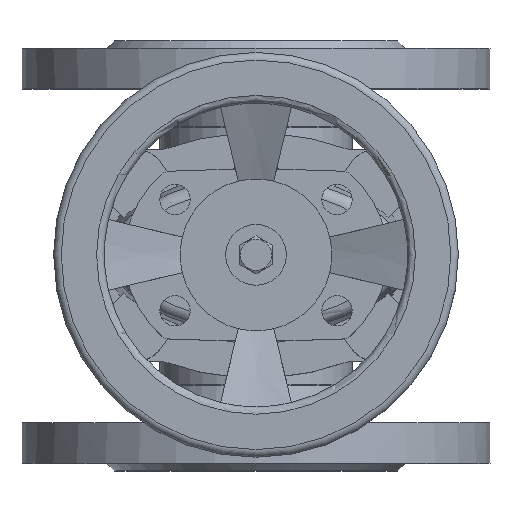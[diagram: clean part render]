
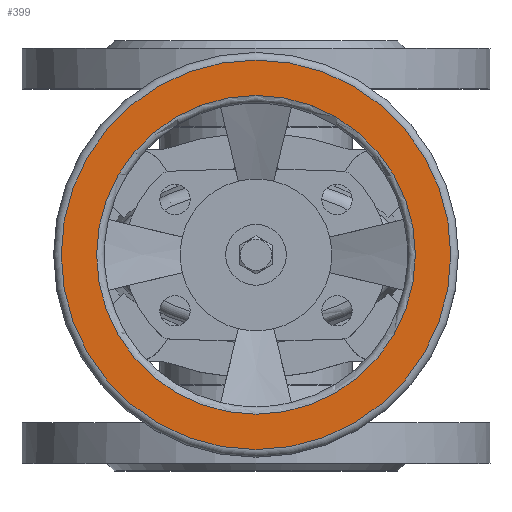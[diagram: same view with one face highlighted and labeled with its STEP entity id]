
A CAD part, top view. The second image highlights one B-rep face of the part: STEP entity #399.
In plain terms, the highlighted planar face has unit normal (0, 0, 1).
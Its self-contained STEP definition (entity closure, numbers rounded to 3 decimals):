
#399=ADVANCED_FACE('',(#2495,#2497),#2499,.T.);
#2495=FACE_BOUND('',#2496,.T.);
#2496=EDGE_LOOP('',(#4229));
#2497=FACE_BOUND('',#2498,.T.);
#2498=EDGE_LOOP('',(#4230));
#2499=PLANE('',#2500);
#2500=AXIS2_PLACEMENT_3D('',#2501,#2502,#2503);
#2501=CARTESIAN_POINT('',(0.,0.,267.));
#2502=DIRECTION('',(0.,0.,1.));
#2503=DIRECTION('',(0.,-1.,0.));
#4229=ORIENTED_EDGE('',*,*,#5347,.T.);
#4230=ORIENTED_EDGE('',*,*,#5317,.F.);
#5317=EDGE_CURVE('',#5962,#5962,#5963,.T.);
#5347=EDGE_CURVE('',#6007,#6007,#6008,.T.);
#5962=VERTEX_POINT('',#7413);
#5963=CIRCLE('',#7414,63.);
#6007=VERTEX_POINT('',#7530);
#6008=CIRCLE('',#7531,77.);
#7413=CARTESIAN_POINT('',(0.,-63.,267.));
#7414=AXIS2_PLACEMENT_3D('',#7415,#7416,#7417);
#7415=CARTESIAN_POINT('',(0.,0.,267.));
#7416=DIRECTION('',(0.,0.,1.));
#7417=DIRECTION('',(0.,-1.,0.));
#7530=CARTESIAN_POINT('',(0.,-77.,267.));
#7531=AXIS2_PLACEMENT_3D('',#7532,#7533,#7534);
#7532=CARTESIAN_POINT('',(0.,0.,267.));
#7533=DIRECTION('',(0.,0.,1.));
#7534=DIRECTION('',(0.,-1.,0.));
